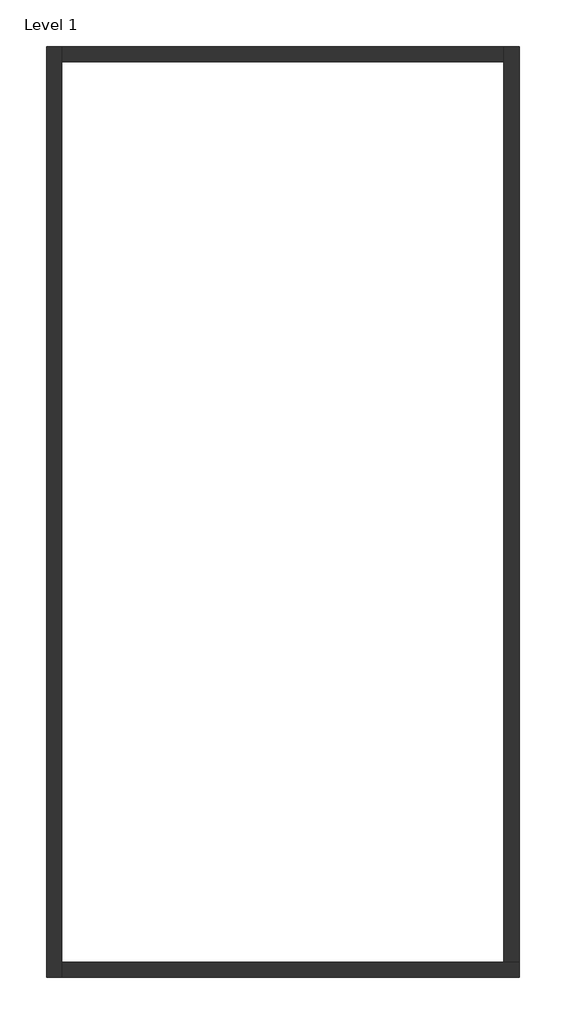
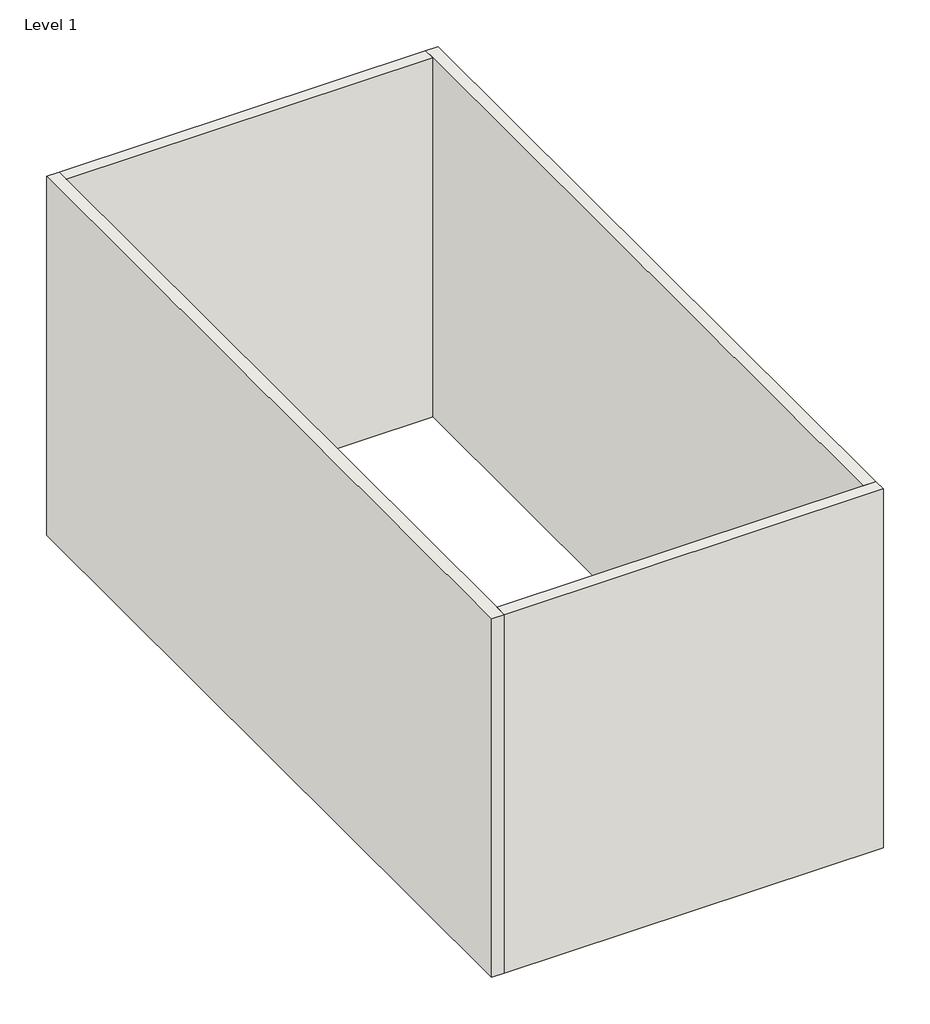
# One storey: 4 walls.
"""IFC4 building model written with IfcOpenShell, lengths in millimetres."""

import ifcopenshell
import ifcopenshell.guid

model = None  # the IFC model being written
_history = None  # IfcOwnerHistory: only IFC2X3 demands one
_inside = {}  # id of a spatial element -> (the spatial element, [elements in it])
_under = {}  # id of a project, library or spatial element -> (it, [spatial elements below it])
_declared = {}  # id of a project -> (the project, [libraries it declares])
_typed = {}  # id of a type object -> (the type object, [elements of that type])
_made_of = {}  # id of a material, layer set ... -> (it, [elements and type objects made of it])


def new_model(schema):
    """Start an empty IFC model of exactly this schema.

    Asked for "IFC4X3", IfcOpenShell would pick the latest addendum, in which some entities
    have other attributes; the version numbers below select the first issue.
    IFC2X3 requires an IfcOwnerHistory on every rooted entity: one is made here for all.
    """
    global model, _history
    if schema == "IFC4X3":
        model = ifcopenshell.file(schema_version=(4, 3, 0, 0))
    else:
        model = ifcopenshell.file(schema=schema)
    _inside.clear()
    _under.clear()
    _declared.clear()
    _typed.clear()
    _made_of.clear()
    _history = None
    if model.schema == "IFC2X3":
        org = make("IfcOrganization", Name="unknown")
        user = make(
            "IfcPersonAndOrganization",
            ThePerson=make("IfcPerson", FamilyName="unknown"),
            TheOrganization=org,
        )
        app = make(
            "IfcApplication",
            ApplicationDeveloper=org,
            Version="unknown",
            ApplicationFullName="unknown",
            ApplicationIdentifier="unknown",
        )
        _history = make(
            "IfcOwnerHistory",
            OwningUser=user,
            OwningApplication=app,
            ChangeAction="ADDED",
            CreationDate=0,
        )
    return model


def make(cls, **values):
    """One entity of the class cls with the attributes given. An attribute that is None is left unset."""
    return model.create_entity(
        cls, **{name: value for name, value in values.items() if value is not None}
    )


def rooted(cls, **values):
    """An entity with a GlobalId (a new one), such as an element, a storey or a relation."""
    return make(cls, GlobalId=ifcopenshell.guid.new(), OwnerHistory=_history, **values)


def si_unit(unit_type, name, prefix=None):
    """IfcSIUnit, for example si_unit("LENGTHUNIT", "METRE", prefix="MILLI")."""
    return make("IfcSIUnit", UnitType=unit_type, Prefix=prefix, Name=name)


def assignment(units):
    """IfcUnitAssignment: the units of a project."""
    return None if units is None else make("IfcUnitAssignment", Units=units)


def point(xyz):
    """IfcCartesianPoint."""
    return None if xyz is None else make("IfcCartesianPoint", Coordinates=xyz)


def direction(xyz):
    """IfcDirection."""
    return None if xyz is None else make("IfcDirection", DirectionRatios=xyz)


def frame(location, z_axis=None, x_axis=None):
    """IfcAxis2Placement3D, a coordinate frame: its origin and axes. An axis left out is left unset."""
    return make(
        "IfcAxis2Placement3D",
        Location=point(location),
        Axis=direction(z_axis),
        RefDirection=direction(x_axis),
    )


def origin():
    """The frame at (0, 0, 0) with its axes left unset."""
    return frame((0.0, 0.0, 0.0))


def origin_with_axes():
    """The frame at (0, 0, 0) with the z axis (0, 0, 1) and the x axis (1, 0, 0) written out."""
    return frame((0.0, 0.0, 0.0), z_axis=(0.0, 0.0, 1.0), x_axis=(1.0, 0.0, 0.0))


def place(relative_to, where):
    """IfcLocalPlacement: puts the frame where relative to a parent placement (None: the world)."""
    return make(
        "IfcLocalPlacement", PlacementRelTo=relative_to, RelativePlacement=where
    )


def context(
    kind, dimensions, precision=None, world=None, true_north=None, identifier=None
):
    """IfcGeometricRepresentationContext, for example the 3D "Model" context."""
    return make(
        "IfcGeometricRepresentationContext",
        ContextIdentifier=identifier,
        ContextType=kind,
        CoordinateSpaceDimension=dimensions,
        Precision=precision,
        WorldCoordinateSystem=world,
        TrueNorth=true_north,
    )


def project(units=None, contexts=None):
    """IfcProject with its units and contexts."""
    return rooted(
        "IfcProject",
        Name="project",
        RepresentationContexts=contexts,
        UnitsInContext=assignment(units),
    )


def spatial(cls, under=None, at=None, **own):
    """A site, building, storey or space (cls), placed at a placement, below another one or the project."""
    s = rooted(cls, ObjectPlacement=at, **own)
    if under is not None:
        _under.setdefault(under.id(), (under, []))[1].append(s)
    return s


def polyline(points):
    """IfcPolyline through the points."""
    return make("IfcPolyline", Points=[point(p) for p in points])


def outline(outer, holes=None, kind="AREA"):
    """IfcArbitraryClosedProfileDef: a profile drawn as a closed curve; with holes, ...WithVoids."""
    if holes is None:
        return make("IfcArbitraryClosedProfileDef", ProfileType=kind, OuterCurve=outer)
    return make(
        "IfcArbitraryProfileDefWithVoids",
        ProfileType=kind,
        OuterCurve=outer,
        InnerCurves=holes,
    )


def extrude(swept, where, along, depth):
    """IfcExtrudedAreaSolid: the profile swept, set in the frame where, extruded along a direction by depth."""
    return make(
        "IfcExtrudedAreaSolid",
        SweptArea=swept,
        Position=where,
        ExtrudedDirection=direction(along),
        Depth=depth,
    )


def faces_of(points, faces, orient=None, outer=None):
    """IfcFace entities. A face is a list of loops; a loop is a list of indices into points, from 0.

    orient and outer hold one flag for each loop. By default every Orientation is true, the
    first loop of a face is its IfcFaceOuterBound and the others are IfcFaceBound.
    """
    made = []
    for i, loops in enumerate(faces):
        bounds = []
        for j, loop in enumerate(loops):
            is_outer = j == 0 if outer is None else outer[i][j]
            bounds.append(
                make(
                    "IfcFaceOuterBound" if is_outer else "IfcFaceBound",
                    Bound=make("IfcPolyLoop", Polygon=[points[k] for k in loop]),
                    Orientation=True if orient is None else orient[i][j],
                )
            )
        made.append(make("IfcFace", Bounds=bounds))
    return made


def faceted_brep(points, faces, orient=None, outer=None, voids=None):
    """IfcFacetedBrep: a solid bounded by flat faces; with voids (closed shells), ...WithVoids."""
    shared = [point(p) for p in points]
    hull = make("IfcClosedShell", CfsFaces=faces_of(shared, faces, orient, outer))
    if voids is None:
        return make("IfcFacetedBrep", Outer=hull)
    return make(
        "IfcFacetedBrepWithVoids",
        Outer=hull,
        Voids=[
            make(cls, CfsFaces=faces_of(shared, fs, o, b)) for cls, fs, o, b in voids
        ],
    )


def shape(context_of_items, identifier, shape_type, items):
    """IfcShapeRepresentation: the items that make up one representation, for example the "Body"."""
    return make(
        "IfcShapeRepresentation",
        ContextOfItems=context_of_items,
        RepresentationIdentifier=identifier,
        RepresentationType=shape_type,
        Items=items,
    )


def made_of(thing, what):
    """Note that an element or type object is made of a material, layer set ...; save() writes the relation."""
    if what is not None:
        _made_of.setdefault(what.id(), (what, []))[1].append(thing)
    return thing


def element(
    cls,
    number,
    at=None,
    inside=None,
    cuts=None,
    type_object=None,
    material=None,
    context=None,
    identifier="Body",
    shape_type=None,
    held_by="IfcProductDefinitionShape",
    body=None,
    shapes=None,
    **own,
):
    """One element of the class cls, such as IfcWall. Its Tag is "e" and its number.

    at: its placement. inside: the storey or other place that contains it. cuts: it is an
    opening in that element (IfcRelVoidsElement). A single representation is given by context,
    identifier, shape_type and body (its items); several are given by shapes. held_by: the class
    of the entity that holds the representations. save() writes the other relations.
    """
    e = rooted(cls, Tag="e%d" % number, ObjectPlacement=at, **own)
    if body is not None:
        shapes = [shape(context, identifier, shape_type, body)]
    if shapes is not None:
        e.Representation = make(held_by, Representations=shapes)
    if inside is not None:
        _inside.setdefault(inside.id(), (inside, []))[1].append(e)
    if cuts is not None:
        rooted(
            "IfcRelVoidsElement", RelatingBuildingElement=cuts, RelatedOpeningElement=e
        )
    if type_object is not None:
        _typed.setdefault(type_object.id(), (type_object, []))[1].append(e)
    return made_of(e, material)


def aggregate(whole, parts):
    """IfcRelAggregates: a whole, such as a stair, and the parts it consists of."""
    return rooted("IfcRelAggregates", RelatingObject=whole, RelatedObjects=parts)


def save(model, path):
    """Write the relations noted so far, then the file.

    IfcRelAggregates (storeys below a building ...), IfcRelContainedInSpatialStructure (elements
    in a storey), IfcRelDefinesByType, IfcRelAssociatesMaterial and IfcRelDeclares: one each for
    every whole, place, type object, material and project.
    """
    for whole, parts in _under.values():
        aggregate(whole, parts)
    for where, things in _inside.values():
        rooted(
            "IfcRelContainedInSpatialStructure",
            RelatedElements=things,
            RelatingStructure=where,
        )
    for kind, things in _typed.values():
        rooted("IfcRelDefinesByType", RelatedObjects=things, RelatingType=kind)
    for what, things in _made_of.values():
        rooted("IfcRelAssociatesMaterial", RelatedObjects=things, RelatingMaterial=what)
    for by, libraries in _declared.values():
        rooted("IfcRelDeclares", RelatingContext=by, RelatedDefinitions=libraries)
    model.write(path)


model = new_model("IFC4")

# Units and contexts
model_context = context("Model", 3, world=origin())
ifc_project = project(units=[si_unit("LENGTHUNIT", "METRE", prefix="MILLI")], contexts=[model_context])

# Site, building, storey
site = spatial("IfcSite", under=ifc_project)
building = spatial("IfcBuilding", under=site)
storey = spatial("IfcBuildingStorey", under=building, Name="Level 1", Elevation=0.0)

# Walls
placement = place(None, origin())
element("IfcWall", 1, ObjectType="Generic - 8\"", at=placement, inside=storey, context=model_context, shape_type="Brep", body=[
    faceted_brep([(-8671.1782653, 14077.6340929, 0.0), (-8671.1782653, 1682.4340929, 0.0), (-8671.1782653, 1682.4340929, 6096.0), (-8671.1782653, 14077.6340929, 6096.0), (-8467.9782653, 14077.6340929, 0.0), (-8467.9782653, 14077.6340929, 6096.0), (-8467.9782653, 13874.4340929, 6096.0), (-8467.9782653, 1885.6340929, 6096.0), (-8467.9782653, 1682.4340929, 6096.0), (-8467.9782653, 1682.4340929, 0.0), (-8467.9782653, 1885.6340929, 0.0), (-8467.9782653, 13874.4340929, 0.0)], [[[0, 1, 2, 3]], [[4, 5, 6, 7, 8, 9, 10, 11]], [[1, 0, 4, 11, 10, 9]], [[3, 2, 8, 7, 6, 5]], [[2, 1, 9, 8]], [[0, 3, 5, 4]]]),
])
element("IfcWall", 2, ObjectType="Generic - 8\"", at=placement, inside=storey, context=model_context, shape_type="Brep", body=[
    faceted_brep([(-8467.9782653, 1682.4340929, 0.0), (-2371.9782653, 1682.4340929, 0.0), (-2371.9782653, 1682.4340929, 6096.0), (-8467.9782653, 1682.4340929, 6096.0), (-8467.9782653, 1885.6340929, 0.0), (-8467.9782653, 1885.6340929, 6096.0), (-2575.1782653, 1885.6340929, 6096.0), (-2371.9782653, 1885.6340929, 6096.0), (-2371.9782653, 1885.6340929, 0.0), (-2575.1782653, 1885.6340929, 0.0)], [[[0, 1, 2, 3]], [[4, 5, 6, 7, 8, 9]], [[1, 0, 4, 9, 8]], [[3, 2, 7, 6, 5]], [[0, 3, 5, 4]], [[2, 1, 8, 7]]]),
])
element("IfcWall", 3, ObjectType="Generic - 8\"", at=placement, inside=storey, context=model_context, shape_type="Brep", body=[
    faceted_brep([(-2371.9782653, 1885.6340929, 0.0), (-2371.9782653, 14077.6340929, 0.0), (-2371.9782653, 14077.6340929, 6096.0), (-2371.9782653, 1885.6340929, 6096.0), (-2575.1782653, 1885.6340929, 0.0), (-2575.1782653, 1885.6340929, 6096.0), (-2575.1782653, 13874.4340929, 6096.0), (-2575.1782653, 14077.6340929, 6096.0), (-2575.1782653, 14077.6340929, 0.0), (-2575.1782653, 13874.4340929, 0.0)], [[[0, 1, 2, 3]], [[4, 5, 6, 7, 8, 9]], [[1, 0, 4, 9, 8]], [[3, 2, 7, 6, 5]], [[0, 3, 5, 4]], [[2, 1, 8, 7]]]),
])
element("IfcWall", 4, ObjectType="Generic - 8\"", at=placement, inside=storey, context=model_context, shape_type="SweptSolid", body=[
    extrude(outline(polyline([(-8467.9782653, 14077.6340929), (-2575.1782653, 14077.6340929), (-2575.1782653, 13874.4340929), (-8467.9782653, 13874.4340929), (-8467.9782653, 14077.6340929)])), origin_with_axes(), (0.0, 0.0, 1.0), 6096.0),
])

save(model, "model.ifc")
